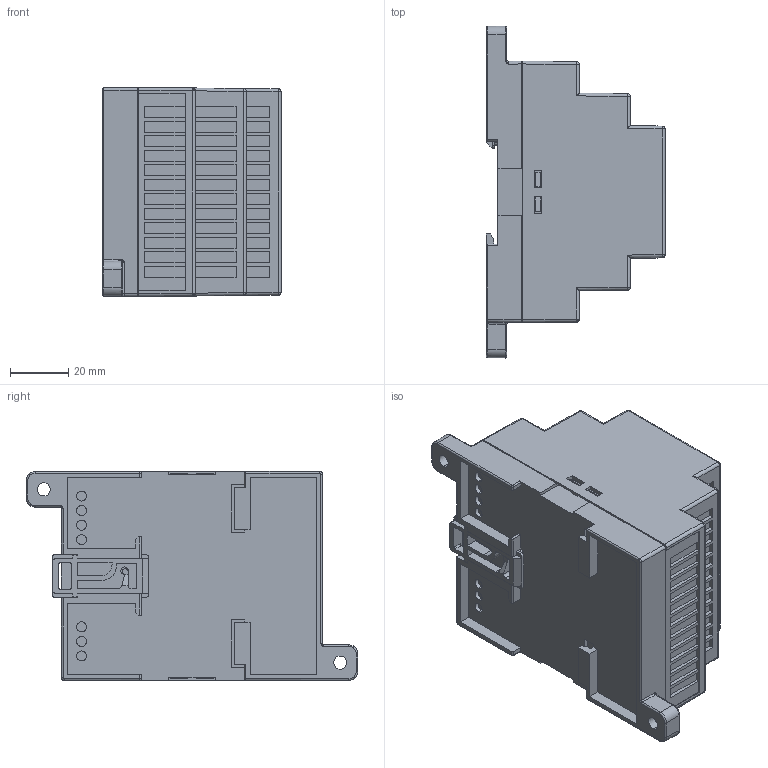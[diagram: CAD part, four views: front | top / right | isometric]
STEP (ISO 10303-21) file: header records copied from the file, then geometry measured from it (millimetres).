
FILE_DESCRIPTION (( 'STEP AP214' ), '1' );
FILE_NAME ('NPSW25_3D_light.STEP', '2017-10-26T06:48:47', ( '' ), ( '' ), 'SwSTEP 2.0', 'SolidWorks 2014', '' );
FILE_SCHEMA (( 'AUTOMOTIVE_DESIGN' ));
Length unit declared in the file: millimetre
Products named in the file (1): NPSW25_3D_light
Bounding box: 61.7 x 114.14 x 72 mm (x, y, z)
Volume: 301789.3 mm3; surface area: 41968.8 mm2
Topology: 1 solids, 144 shells, 3284 faces, 8529 edges, 5637 vertices
Faces by surface type: plane 2581, cylinder 656, bspline 27, sphere 20
Entity records: 106060 total; most frequent: CARTESIAN_POINT 30383, ORIENTED_EDGE 17042, DIRECTION 12871, EDGE_CURVE 8521, LINE 5937, VECTOR 5937, VERTEX_POINT 5637, AXIS2_PLACEMENT_3D 3467
